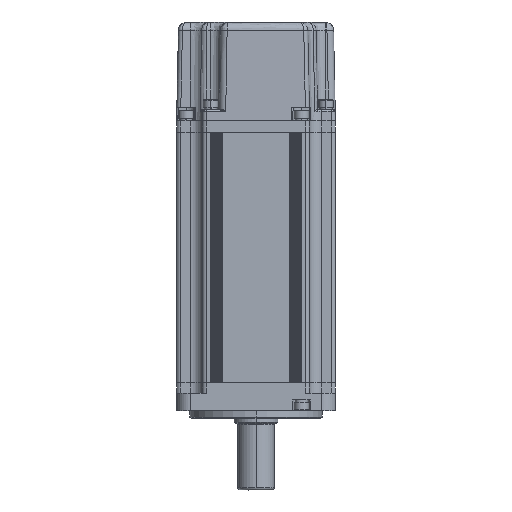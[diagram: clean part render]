
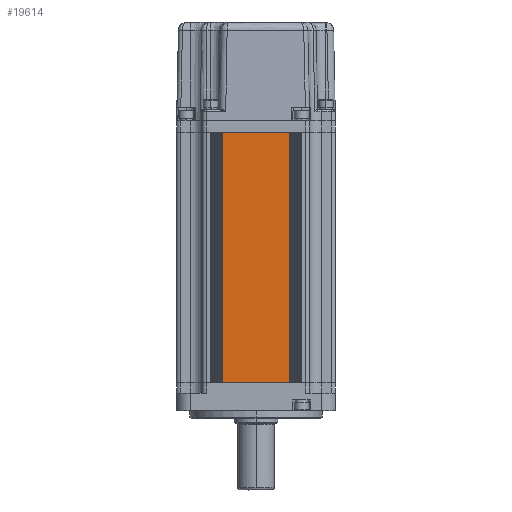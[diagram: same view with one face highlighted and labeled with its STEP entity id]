
A CAD part, left-side view. The second image highlights one B-rep face of the part: STEP entity #19614.
In plain terms, the highlighted planar face has unit normal (-1, 0, 0) as drawn and (1, 0, 0) by its records, which use the part's own axes.
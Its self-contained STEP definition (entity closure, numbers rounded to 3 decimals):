
#13010=DIRECTION('',(0.,1.,0.));
#13011=VECTOR('',#13010,25.);
#13012=CARTESIAN_POINT('',(30.,-12.5,0.));
#13013=LINE('',#13012,#13011);
#14311=DIRECTION('',(0.,1.,0.));
#14312=VECTOR('',#14311,25.);
#14313=CARTESIAN_POINT('',(30.,-12.5,94.5));
#14314=LINE('',#14313,#14312);
#15353=DIRECTION('',(0.,0.,1.));
#15354=VECTOR('',#15353,94.5);
#15355=CARTESIAN_POINT('',(30.,12.5,0.));
#15356=LINE('',#15355,#15354);
#15357=DIRECTION('',(0.,0.,1.));
#15358=VECTOR('',#15357,94.5);
#15359=CARTESIAN_POINT('',(30.,-12.5,0.));
#15360=LINE('',#15359,#15358);
#16513=CARTESIAN_POINT('',(30.,-12.5,0.));
#16515=VERTEX_POINT('',#16513);
#16577=CARTESIAN_POINT('',(30.,-12.5,94.5));
#16579=VERTEX_POINT('',#16577);
#16869=CARTESIAN_POINT('',(30.,12.5,0.));
#16870=VERTEX_POINT('',#16869);
#16901=CARTESIAN_POINT('',(30.,12.5,94.5));
#16902=VERTEX_POINT('',#16901);
#19601=CARTESIAN_POINT('',(30.,-30.,0.));
#19602=DIRECTION('',(1.,0.,0.));
#19603=DIRECTION('',(0.,1.,0.));
#19604=AXIS2_PLACEMENT_3D('',#19601,#19602,#19603);
#19605=PLANE('',#19604);
#19607=ORIENTED_EDGE('',*,*,#19606,.F.);
#19608=ORIENTED_EDGE('',*,*,#17236,.F.);
#19610=ORIENTED_EDGE('',*,*,#19609,.T.);
#19611=ORIENTED_EDGE('',*,*,#18324,.T.);
#19612=EDGE_LOOP('',(#19607,#19608,#19610,#19611));
#19613=FACE_OUTER_BOUND('',#19612,.F.);
#17236=EDGE_CURVE('',#16515,#16870,#13013,.T.);
#18324=EDGE_CURVE('',#16579,#16902,#14314,.T.);
#19606=EDGE_CURVE('',#16870,#16902,#15356,.T.);
#19609=EDGE_CURVE('',#16515,#16579,#15360,.T.);
#19614=ADVANCED_FACE('',(#19613),#19605,.T.);
